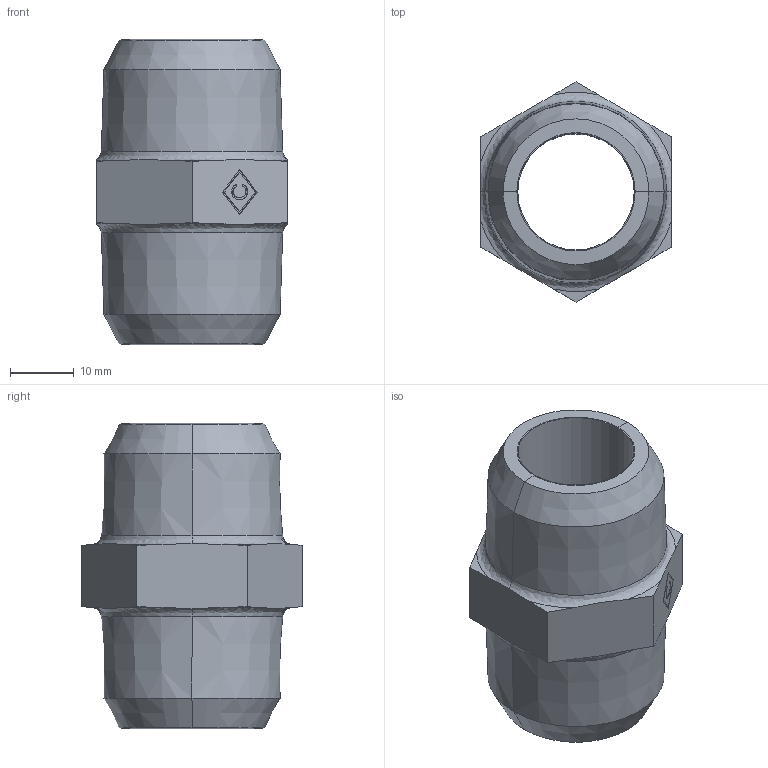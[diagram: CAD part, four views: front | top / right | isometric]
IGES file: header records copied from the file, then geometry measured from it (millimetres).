
Global section: file name: No Iges File Name specified; native system: AutoDesk Inventor R12.0; preprocessor: AutoDesk Inventor Iges Exporter R12.0; date: 20090914.123941; units: millimetre
Bounding box: 30 x 34.64 x 48 mm (x, y, z)
Volume: 17716.7 mm3; surface area: 7630.9 mm2
Topology: 1 solids, 1 shells, 59 faces, 151 edges, 97 vertices
Faces by surface type: cone 24, plane 21, bspline 14
